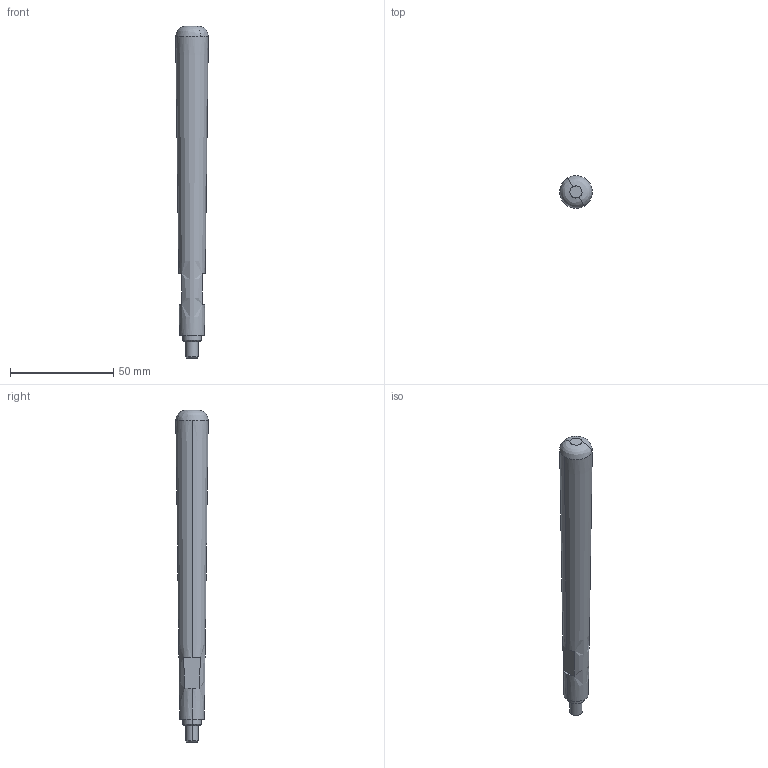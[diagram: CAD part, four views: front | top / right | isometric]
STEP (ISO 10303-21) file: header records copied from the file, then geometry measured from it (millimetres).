
FILE_DESCRIPTION (( 'STEP AP214' ), '1' );
FILE_NAME ('GZ27.05_V1忒梟.STEP', '2021-04-11T06:15:04', ( 'hp' ), ( '' ), 'SwSTEP 2.0', 'SolidWorks 2017', '' );
FILE_SCHEMA (( 'AUTOMOTIVE_DESIGN' ));
Length unit declared in the file: millimetre
Products named in the file (1): GZ27.05_V1忒梟
Bounding box: 15.86 x 15.86 x 161 mm (x, y, z)
Volume: 23217.1 mm3; surface area: 7020.7 mm2
Topology: 1 solids, 1 shells, 22 faces, 52 edges, 34 vertices
Faces by surface type: plane 10, cone 6, cylinder 4, bspline 2
Entity records: 923 total; most frequent: CARTESIAN_POINT 358, DIRECTION 110, ORIENTED_EDGE 104, EDGE_CURVE 52, AXIS2_PLACEMENT_3D 47, VERTEX_POINT 34, CIRCLE 26, EDGE_LOOP 24
